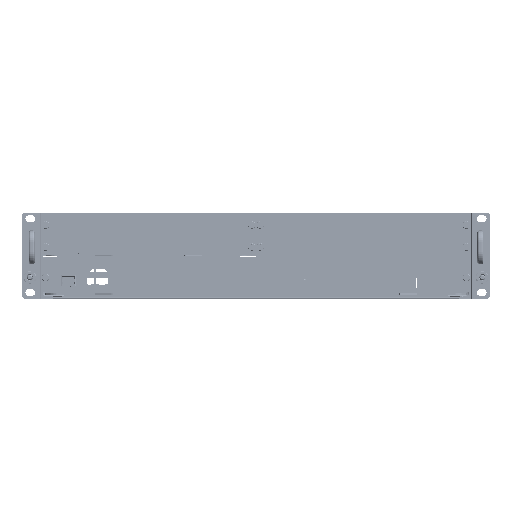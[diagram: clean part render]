
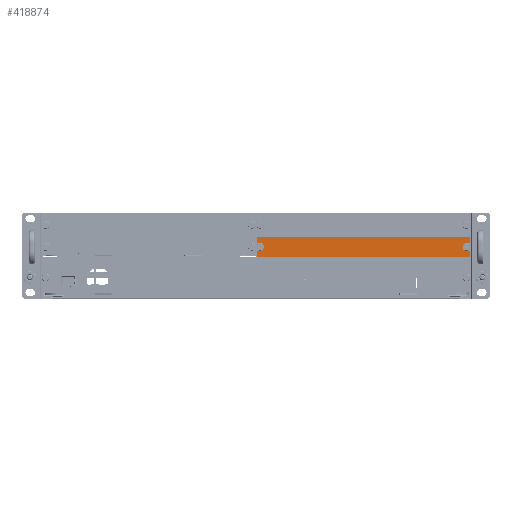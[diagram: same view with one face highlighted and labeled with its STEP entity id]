
A CAD part, top view. The second image highlights one B-rep face of the part: STEP entity #418874.
In plain terms, the highlighted planar face has unit normal (0, 0, 1).
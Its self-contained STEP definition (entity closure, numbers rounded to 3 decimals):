
#418348=CARTESIAN_POINT('',(1.,58.35,-0.2));
#418349=VERTEX_POINT('',#418348);
#418356=CARTESIAN_POINT('',(1.,62.55,-0.2));
#418357=VERTEX_POINT('',#418356);
#418358=CARTESIAN_POINT('',(1.,62.55,-0.2));
#418359=DIRECTION('',(-0.,-1.,-0.));
#418360=VECTOR('',#418359,4.2);
#418361=LINE('',#418358,#418360);
#418362=EDGE_CURVE('',#418357,#418349,#418361,.T.);
#418380=CARTESIAN_POINT('',(2.,63.55,-0.2));
#418381=VERTEX_POINT('',#418380);
#418382=CARTESIAN_POINT('',(2.,62.55,-0.2));
#418383=DIRECTION('',(-0.,-0.,1.));
#418384=DIRECTION('',(-1.,0.,0.));
#418385=AXIS2_PLACEMENT_3D('',#418382,#418383,#418384);
#418386=CIRCLE('',#418385,1.);
#418387=EDGE_CURVE('',#418381,#418357,#418386,.T.);
#418404=CARTESIAN_POINT('',(219.5,63.55,-0.2));
#418405=VERTEX_POINT('',#418404);
#418406=CARTESIAN_POINT('',(219.5,63.55,-0.2));
#418407=DIRECTION('',(-1.,-0.,0.));
#418408=VECTOR('',#418407,217.5);
#418409=LINE('',#418406,#418408);
#418410=EDGE_CURVE('',#418405,#418381,#418409,.T.);
#418429=CARTESIAN_POINT('',(220.5,62.55,-0.2));
#418430=VERTEX_POINT('',#418429);
#418431=CARTESIAN_POINT('',(219.5,62.55,-0.2));
#418432=DIRECTION('',(-0.,-0.,1.));
#418433=DIRECTION('',(-1.,0.,0.));
#418434=AXIS2_PLACEMENT_3D('',#418431,#418432,#418433);
#418435=CIRCLE('',#418434,1.);
#418436=EDGE_CURVE('',#418430,#418405,#418435,.T.);
#418454=CARTESIAN_POINT('',(220.5,58.35,-0.2));
#418455=VERTEX_POINT('',#418454);
#418456=CARTESIAN_POINT('',(220.5,58.35,-0.2));
#418457=DIRECTION('',(0.,1.,0.));
#418458=VECTOR('',#418457,4.2);
#418459=LINE('',#418456,#418458);
#418460=EDGE_CURVE('',#418455,#418430,#418459,.T.);
#418478=CARTESIAN_POINT('',(219.5,57.35,-0.2));
#418479=VERTEX_POINT('',#418478);
#418480=CARTESIAN_POINT('',(219.5,58.35,-0.2));
#418481=DIRECTION('',(0.,0.,1.));
#418482=DIRECTION('',(1.,0.,-0.));
#418483=AXIS2_PLACEMENT_3D('',#418480,#418481,#418482);
#418484=CIRCLE('',#418483,1.);
#418485=EDGE_CURVE('',#418479,#418455,#418484,.T.);
#418503=CARTESIAN_POINT('',(216.7,57.35,-0.2));
#418504=VERTEX_POINT('',#418503);
#418505=CARTESIAN_POINT('',(216.7,57.35,-0.2));
#418506=DIRECTION('',(1.,0.,-0.));
#418507=VECTOR('',#418506,2.8);
#418508=LINE('',#418505,#418507);
#418509=EDGE_CURVE('',#418504,#418479,#418508,.T.);
#418527=CARTESIAN_POINT('',(216.7,49.35,-0.2));
#418528=VERTEX_POINT('',#418527);
#418529=CARTESIAN_POINT('',(216.7,53.35,-0.2));
#418530=DIRECTION('',(-0.,-0.,-1.));
#418531=DIRECTION('',(1.,0.,-0.));
#418532=AXIS2_PLACEMENT_3D('',#418529,#418530,#418531);
#418533=CIRCLE('',#418532,4.);
#418534=EDGE_CURVE('',#418528,#418504,#418533,.T.);
#418552=CARTESIAN_POINT('',(219.5,49.35,-0.2));
#418553=VERTEX_POINT('',#418552);
#418554=CARTESIAN_POINT('',(219.5,49.35,-0.2));
#418555=DIRECTION('',(-1.,-0.,0.));
#418556=VECTOR('',#418555,2.8);
#418557=LINE('',#418554,#418556);
#418558=EDGE_CURVE('',#418553,#418528,#418557,.T.);
#418576=CARTESIAN_POINT('',(220.5,48.35,-0.2));
#418577=VERTEX_POINT('',#418576);
#418578=CARTESIAN_POINT('',(219.5,48.35,-0.2));
#418579=DIRECTION('',(0.,0.,1.));
#418580=DIRECTION('',(1.,0.,-0.));
#418581=AXIS2_PLACEMENT_3D('',#418578,#418579,#418580);
#418582=CIRCLE('',#418581,1.);
#418583=EDGE_CURVE('',#418577,#418553,#418582,.T.);
#418601=CARTESIAN_POINT('',(220.5,44.15,-0.2));
#418602=VERTEX_POINT('',#418601);
#418603=CARTESIAN_POINT('',(220.5,44.15,-0.2));
#418604=DIRECTION('',(0.,1.,0.));
#418605=VECTOR('',#418604,4.2);
#418606=LINE('',#418603,#418605);
#418607=EDGE_CURVE('',#418602,#418577,#418606,.T.);
#418625=CARTESIAN_POINT('',(219.5,43.15,-0.2));
#418626=VERTEX_POINT('',#418625);
#418627=CARTESIAN_POINT('',(219.5,44.15,-0.2));
#418628=DIRECTION('',(-0.,-0.,1.));
#418629=DIRECTION('',(-1.,0.,0.));
#418630=AXIS2_PLACEMENT_3D('',#418627,#418628,#418629);
#418631=CIRCLE('',#418630,1.);
#418632=EDGE_CURVE('',#418626,#418602,#418631,.T.);
#418651=CARTESIAN_POINT('',(2.,43.15,-0.2));
#418652=VERTEX_POINT('',#418651);
#418653=CARTESIAN_POINT('',(2.,43.15,-0.2));
#418654=DIRECTION('',(1.,0.,-0.));
#418655=VECTOR('',#418654,217.5);
#418656=LINE('',#418653,#418655);
#418657=EDGE_CURVE('',#418652,#418626,#418656,.T.);
#418674=CARTESIAN_POINT('',(1.,44.15,-0.2));
#418675=VERTEX_POINT('',#418674);
#418676=CARTESIAN_POINT('',(2.,44.15,-0.2));
#418677=DIRECTION('',(-0.,-0.,1.));
#418678=DIRECTION('',(-1.,0.,0.));
#418679=AXIS2_PLACEMENT_3D('',#418676,#418677,#418678);
#418680=CIRCLE('',#418679,1.);
#418681=EDGE_CURVE('',#418675,#418652,#418680,.T.);
#418699=CARTESIAN_POINT('',(1.,48.35,-0.2));
#418700=VERTEX_POINT('',#418699);
#418701=CARTESIAN_POINT('',(1.,48.35,-0.2));
#418702=DIRECTION('',(-0.,-1.,-0.));
#418703=VECTOR('',#418702,4.2);
#418704=LINE('',#418701,#418703);
#418705=EDGE_CURVE('',#418700,#418675,#418704,.T.);
#418723=CARTESIAN_POINT('',(2.,49.35,-0.2));
#418724=VERTEX_POINT('',#418723);
#418725=CARTESIAN_POINT('',(2.,48.35,-0.2));
#418726=DIRECTION('',(0.,0.,1.));
#418727=DIRECTION('',(1.,0.,-0.));
#418728=AXIS2_PLACEMENT_3D('',#418725,#418726,#418727);
#418729=CIRCLE('',#418728,1.);
#418730=EDGE_CURVE('',#418724,#418700,#418729,.T.);
#418748=CARTESIAN_POINT('',(4.5,49.35,-0.2));
#418749=VERTEX_POINT('',#418748);
#418750=CARTESIAN_POINT('',(4.5,49.35,-0.2));
#418751=DIRECTION('',(-1.,-0.,0.));
#418752=VECTOR('',#418751,2.5);
#418753=LINE('',#418750,#418752);
#418754=EDGE_CURVE('',#418749,#418724,#418753,.T.);
#418771=CARTESIAN_POINT('',(8.5,53.35,-0.2));
#418772=VERTEX_POINT('',#418771);
#418779=CARTESIAN_POINT('',(4.5,57.35,-0.2));
#418780=VERTEX_POINT('',#418779);
#418781=CARTESIAN_POINT('',(4.5,53.35,-0.2));
#418782=DIRECTION('',(-0.,-0.,-1.));
#418783=DIRECTION('',(1.,0.,-0.));
#418784=AXIS2_PLACEMENT_3D('',#418781,#418782,#418783);
#418785=CIRCLE('',#418784,4.);
#418786=EDGE_CURVE('',#418780,#418772,#418785,.T.);
#418804=CARTESIAN_POINT('',(2.,57.35,-0.2));
#418805=VERTEX_POINT('',#418804);
#418806=CARTESIAN_POINT('',(2.,57.35,-0.2));
#418807=DIRECTION('',(1.,0.,-0.));
#418808=VECTOR('',#418807,2.5);
#418809=LINE('',#418806,#418808);
#418810=EDGE_CURVE('',#418805,#418780,#418809,.T.);
#418828=CARTESIAN_POINT('',(2.,58.35,-0.2));
#418829=DIRECTION('',(0.,0.,1.));
#418830=DIRECTION('',(1.,0.,-0.));
#418831=AXIS2_PLACEMENT_3D('',#418828,#418829,#418830);
#418832=CIRCLE('',#418831,1.);
#418833=EDGE_CURVE('',#418349,#418805,#418832,.T.);
#418840=CARTESIAN_POINT('',(221.2,0.,-0.2));
#418841=DIRECTION('',(0.,0.,1.));
#418842=DIRECTION('',(1.,0.,0.));
#418843=AXIS2_PLACEMENT_3D('',#418840,#418841,#418842);
#418844=PLANE('',#418843);
#418845=ORIENTED_EDGE('',*,*,#418833,.T.);
#418846=ORIENTED_EDGE('',*,*,#418810,.T.);
#418847=ORIENTED_EDGE('',*,*,#418786,.T.);
#418848=CARTESIAN_POINT('',(4.5,53.35,-0.2));
#418849=DIRECTION('',(-0.,-0.,-1.));
#418850=DIRECTION('',(1.,0.,-0.));
#418851=AXIS2_PLACEMENT_3D('',#418848,#418849,#418850);
#418852=CIRCLE('',#418851,4.);
#418853=EDGE_CURVE('',#418772,#418749,#418852,.T.);
#418854=ORIENTED_EDGE('',*,*,#418853,.T.);
#418855=ORIENTED_EDGE('',*,*,#418754,.T.);
#418856=ORIENTED_EDGE('',*,*,#418730,.T.);
#418857=ORIENTED_EDGE('',*,*,#418705,.T.);
#418858=ORIENTED_EDGE('',*,*,#418681,.T.);
#418859=ORIENTED_EDGE('',*,*,#418657,.T.);
#418860=ORIENTED_EDGE('',*,*,#418632,.T.);
#418861=ORIENTED_EDGE('',*,*,#418607,.T.);
#418862=ORIENTED_EDGE('',*,*,#418583,.T.);
#418863=ORIENTED_EDGE('',*,*,#418558,.T.);
#418864=ORIENTED_EDGE('',*,*,#418534,.T.);
#418865=ORIENTED_EDGE('',*,*,#418509,.T.);
#418866=ORIENTED_EDGE('',*,*,#418485,.T.);
#418867=ORIENTED_EDGE('',*,*,#418460,.T.);
#418868=ORIENTED_EDGE('',*,*,#418436,.T.);
#418869=ORIENTED_EDGE('',*,*,#418410,.T.);
#418870=ORIENTED_EDGE('',*,*,#418387,.T.);
#418871=ORIENTED_EDGE('',*,*,#418362,.T.);
#418872=EDGE_LOOP('',(#418845,#418846,#418847,#418854,#418855,#418856,#418857,#418858,#418859,#418860,#418861,#418862,#418863,#418864,#418865,#418866,#418867,#418868,#418869,#418870,#418871));
#418873=FACE_BOUND('',#418872,.T.);
#418874=ADVANCED_FACE('',(#418873),#418844,.T.);
